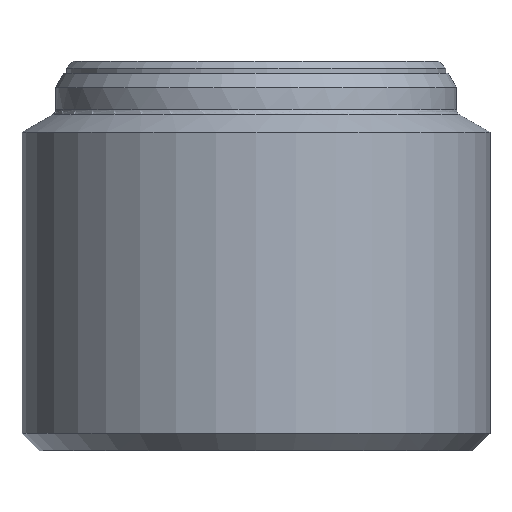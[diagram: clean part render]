
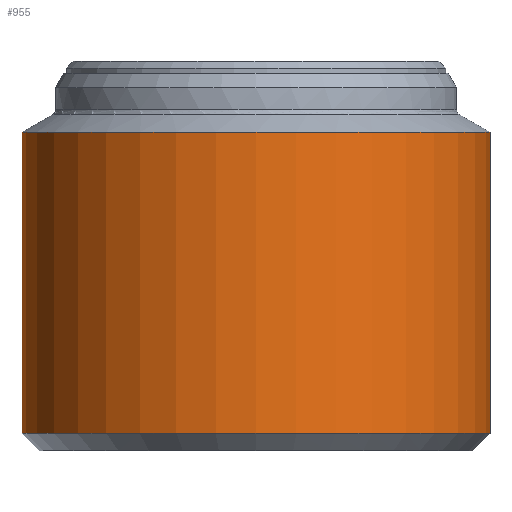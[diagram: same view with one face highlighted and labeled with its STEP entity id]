
A CAD part, front view. The second image highlights one B-rep face of the part: STEP entity #955.
In plain terms, the highlighted cylindrical face has radius 17.335 mm (diameter 34.671 mm), a partial arc.
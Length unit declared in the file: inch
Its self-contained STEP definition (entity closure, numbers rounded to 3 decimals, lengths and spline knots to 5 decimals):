
#148=FACE_OUTER_BOUND('',#206,.T.);
#206=EDGE_LOOP('',(#727,#728,#729,#730));
#267=LINE('',#1629,#306);
#268=LINE('',#1630,#307);
#306=VECTOR('',#1242,0.3937);
#307=VECTOR('',#1243,0.3937);
#353=CIRCLE('',#1043,0.6825);
#359=CIRCLE('',#1051,0.6825);
#438=VERTEX_POINT('',#1525);
#439=VERTEX_POINT('',#1529);
#446=VERTEX_POINT('',#1619);
#447=VERTEX_POINT('',#1623);
#543=EDGE_CURVE('',#439,#438,#353,.T.);
#554=EDGE_CURVE('',#447,#446,#359,.T.);
#556=EDGE_CURVE('',#446,#438,#267,.T.);
#557=EDGE_CURVE('',#439,#447,#268,.T.);
#727=ORIENTED_EDGE('',*,*,#543,.F.);
#728=ORIENTED_EDGE('',*,*,#557,.T.);
#729=ORIENTED_EDGE('',*,*,#554,.T.);
#730=ORIENTED_EDGE('',*,*,#556,.T.);
#923=CYLINDRICAL_SURFACE('',#1055,0.6825);
#955=ADVANCED_FACE('',(#148),#923,.T.);
#1043=AXIS2_PLACEMENT_3D('',#1533,#1222,#1223);
#1051=AXIS2_PLACEMENT_3D('',#1624,#1238,#1239);
#1055=AXIS2_PLACEMENT_3D('',#1635,#1248,#1249);
#1222=DIRECTION('center_axis',(0.,0.,
-1.));
#1223=DIRECTION('ref_axis',(-1.,0.,0.));
#1238=DIRECTION('center_axis',(0.,0.,
-1.));
#1239=DIRECTION('ref_axis',(-1.,0.,0.));
#1242=DIRECTION('',(0.,0.,-1.));
#1243=DIRECTION('',(0.,0.,1.));
#1248=DIRECTION('center_axis',(0.,0.,
-1.));
#1249=DIRECTION('ref_axis',(0.,-1.,0.));
#1525=CARTESIAN_POINT('',(-0.35154,-0.4585,-0.45));
#1529=CARTESIAN_POINT('',(0.35154,-0.4585,-0.45));
#1533=CARTESIAN_POINT('Origin',(0.,-1.0435,-0.45));
#1619=CARTESIAN_POINT('',(-0.35154,-0.4585,0.42871));
#1623=CARTESIAN_POINT('',(0.35154,-0.4585,0.42871));
#1624=CARTESIAN_POINT('Origin',(0.,-1.0435,0.42871));
#1629=CARTESIAN_POINT('',(-0.35154,-0.4585,-0.03565));
#1630=CARTESIAN_POINT('',(0.35154,-0.4585,-0.03565));
#1635=CARTESIAN_POINT('Origin',(0.,-1.0435,-0.03565));
